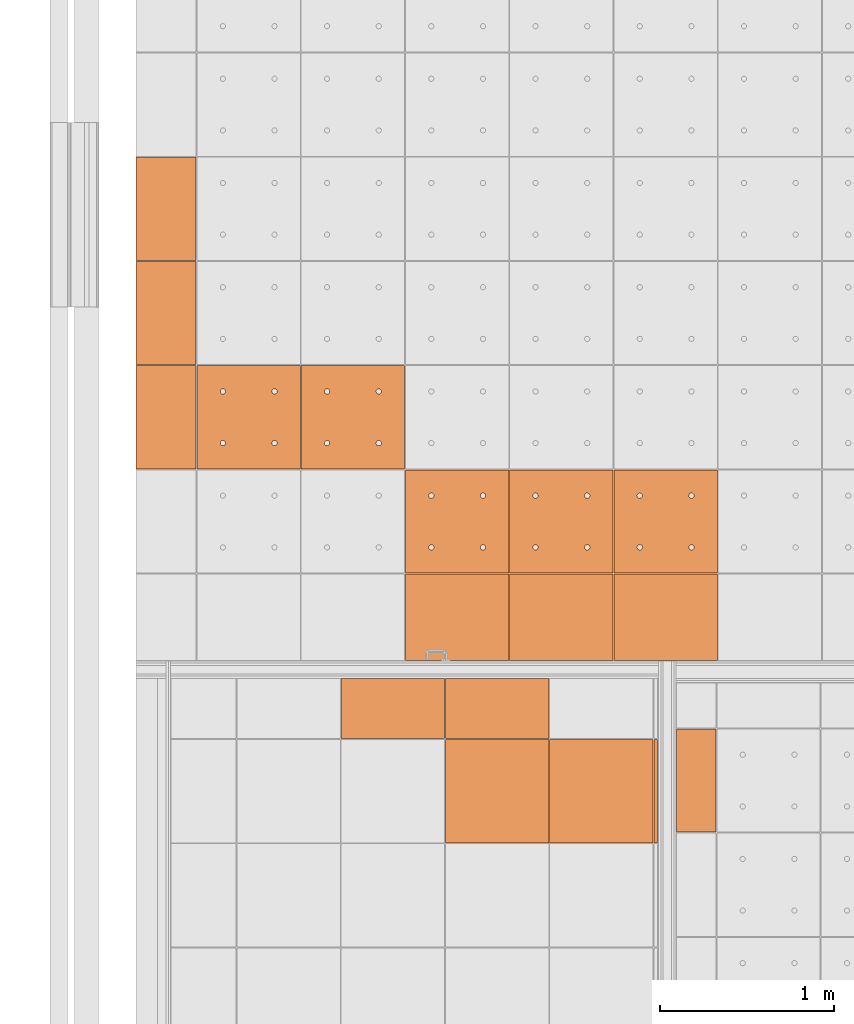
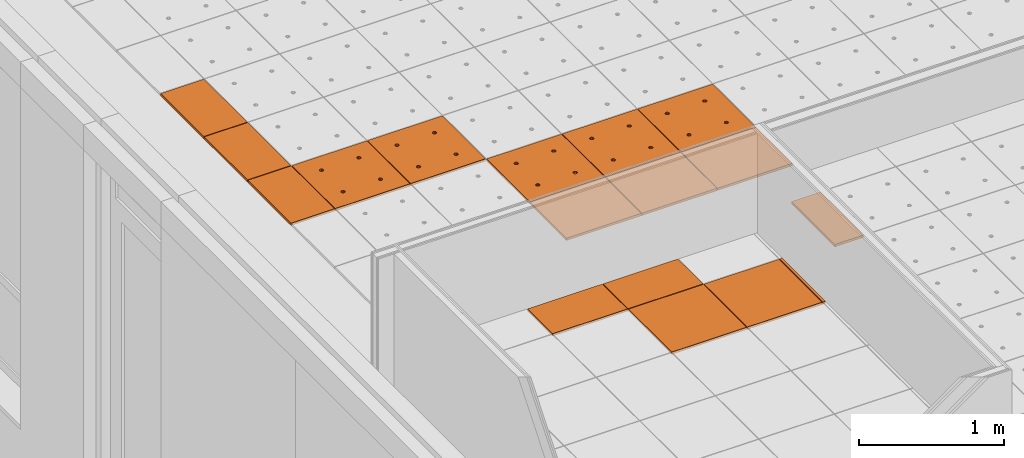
# One storey, part 244 of 338: 17 proxies, 3 elements without a shape of their own.
"""IFC2X3 building model written with IfcOpenShell, lengths in millimetres."""

from ifc_helpers import new_model, entity, si_unit, converted_unit, derived_unit, money_unit, direction, frame, origin_with_axes, place, context, subcontext, project, spatial, faceted_brep, source, transform, mapped, material, type_object, type_shapes, element, aggregate, save


model = new_model("IFC2X3")

# Units and contexts
model_context = context("Model", 3, precision=0.01, world=origin_with_axes(), true_north=direction((0.0, 1.0)))
plan_context = context("Plan", 3, precision=0.01, world=origin_with_axes(), true_north=direction((0.0, 1.0)))
body_context = subcontext(model_context, "Body", "Model", "MODEL_VIEW")
ifc_project = project(units=[si_unit("LENGTHUNIT", "METRE", prefix="MILLI"), si_unit("AREAUNIT", "SQUARE_METRE"), si_unit("VOLUMEUNIT", "CUBIC_METRE"), converted_unit("PLANEANGLEUNIT", "DEGREE", entity("IfcPlaneAngleMeasure", 0.0174532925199), si_unit("PLANEANGLEUNIT", "RADIAN"), dimensions=[0, 0, 0, 0, 0, 0, 0]), money_unit("EUR"), converted_unit("TIMEUNIT", "Year", entity("IfcTimeMeasure", 31556926.0), si_unit("TIMEUNIT", "SECOND"), dimensions=[0, 0, 1, 0, 0, 0, 0]), si_unit("MASSUNIT", "GRAM", prefix="KILO"), si_unit("THERMODYNAMICTEMPERATUREUNIT", "DEGREE_CELSIUS"), si_unit("LUMINOUSINTENSITYUNIT", "LUMEN"), si_unit("ENERGYUNIT", "JOULE", prefix="MEGA"), derived_unit("THERMALCONDUCTANCEUNIT", [(si_unit("POWERUNIT", "WATT"), 1), (si_unit("LENGTHUNIT", "METRE"), -1), (si_unit("THERMODYNAMICTEMPERATUREUNIT", "KELVIN"), -1)]), derived_unit("SPECIFICHEATCAPACITYUNIT", [(si_unit("ENERGYUNIT", "JOULE"), 1), (si_unit("MASSUNIT", "GRAM", prefix="KILO"), -1), (si_unit("THERMODYNAMICTEMPERATUREUNIT", "KELVIN"), -1)]), derived_unit("MASSDENSITYUNIT", [(si_unit("MASSUNIT", "GRAM", prefix="KILO"), 1), (si_unit("VOLUMEUNIT", "CUBIC_METRE"), -1)])], contexts=[model_context, plan_context])

# Site, building, storey
site_placement = place(None, origin_with_axes())
site = spatial("IfcSite", under=ifc_project, at=site_placement, Name="Fortuinstraat Woensdrecht", CompositionType="ELEMENT")
building_placement = place(site_placement, origin_with_axes())
building = spatial("IfcBuilding", under=site, at=building_placement, Name="IKC Fortuna", CompositionType="ELEMENT")
storey_placement = place(building_placement, origin_with_axes())
storey = spatial("IfcBuildingStorey", under=building, at=storey_placement, Name="00 begane grond", CompositionType="ELEMENT", Elevation=0.0)

# Covering, proxies
covering_type = type_object("IfcCoveringType", Name="Curtain Wall Type", PredefinedType="CEILING")
covering_1_placement = place(storey_placement, frame((15059.4416165, 34009.703821, 3210.0), z_axis=(0.0, 0.0, 1.0), x_axis=(1.0, 0.0, 0.0)))
covering_1 = element("IfcCovering", 1, at=covering_1_placement, inside=storey, type_object=covering_type, Name="45_Plafondafwerking_P01", PredefinedType="CEILING")
ifc_material = material(Name="Gipsplaat")
building_element_proxy_type_1 = type_object("IfcBuildingElementProxyType", Name="Distinct Panel 600 x 600 x 20", PredefinedType="NOTDEFINED")
shared_shape_1 = source(origin_with_axes(), body_context, "Body", "Brep", [
    faceted_brep([(2.49999999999, 2.49999999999, -10.0), (300.0, 2.49999999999, -10.0), (300.0, 2.49999999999, 10.0), (2.49999999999, 2.49999999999, 10.0), (2.49999999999, 300.0, -10.0), (2.49999999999, 597.5, -10.0), (300.0, 597.5, -10.0), (597.5, 597.5, -10.0), (597.5, 300.0, -10.0), (597.5, 2.49999999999, -10.0), (166.25, 450.06232995, -10.0), (165.79423259, 452.64711538, -10.0), (164.896546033, 455.11348892, -10.0), (163.58421608, 457.38651108, -10.0), (161.897117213, 459.39711721, -10.0), (159.886511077, 461.08421608, -10.0), (157.613488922, 462.39654603, -10.0), (155.147115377, 463.29423259, -10.0), (152.562329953, 463.75, -10.0), (149.937670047, 463.75, -10.0), (147.352884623, 463.29423259, -10.0), (144.886511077, 462.39654603, -10.0), (142.613488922, 461.08421608, -10.0), (140.602882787, 459.39711721, -10.0), (138.91578392, 457.38651108, -10.0), (137.603453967, 455.11348892, -10.0), (136.705767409, 452.64711538, -10.0), (136.25, 450.06232995, -10.0), (136.25, 448.75, -10.0), (136.25, 447.43767005, -10.0), (136.705767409, 444.85288462, -10.0), (137.603453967, 442.38651108, -10.0), (138.91578392, 440.11348892, -10.0), (140.602882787, 438.10288279, -10.0), (142.613488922, 436.41578392, -10.0), (144.886511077, 435.10345397, -10.0), (147.352884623, 434.20576741, -10.0), (149.937670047, 433.75, -10.0), (152.562329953, 433.75, -10.0), (155.147115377, 434.20576741, -10.0), (157.613488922, 435.10345397, -10.0), (159.886511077, 436.41578392, -10.0), (161.897117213, 438.10288279, -10.0), (163.58421608, 440.11348892, -10.0), (164.896546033, 442.38651108, -10.0), (165.79423259, 444.85288462, -10.0), (166.25, 447.43767005, -10.0), (463.75, 450.06232995, -10.0), (463.29423259, 452.64711538, -10.0), (462.396546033, 455.11348892, -10.0), (461.08421608, 457.38651108, -10.0), (459.397117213, 459.39711721, -10.0), (457.386511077, 461.08421608, -10.0), (455.113488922, 462.39654603, -10.0), (452.647115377, 463.29423259, -10.0), (450.062329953, 463.75, -10.0), (447.437670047, 463.75, -10.0), (444.852884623, 463.29423259, -10.0), (442.386511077, 462.39654603, -10.0), (440.113488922, 461.08421608, -10.0), (438.102882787, 459.39711721, -10.0), (436.41578392, 457.38651108, -10.0), (435.103453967, 455.11348892, -10.0), (434.205767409, 452.64711538, -10.0), (433.75, 450.06232995, -10.0), (433.75, 448.75, -10.0), (433.75, 447.43767005, -10.0), (434.205767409, 444.85288462, -10.0), (435.103453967, 442.38651108, -10.0), (436.41578392, 440.11348892, -10.0), (438.102882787, 438.10288279, -10.0), (440.113488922, 436.41578392, -10.0), (442.386511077, 435.10345397, -10.0), (444.852884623, 434.20576741, -10.0), (447.437670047, 433.75, -10.0), (450.062329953, 433.75, -10.0), (452.647115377, 434.20576741, -10.0), (455.113488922, 435.10345397, -10.0), (457.386511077, 436.41578392, -10.0), (459.397117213, 438.10288279, -10.0), (461.08421608, 440.11348892, -10.0), (462.396546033, 442.38651108, -10.0), (463.29423259, 444.85288462, -10.0), (463.75, 447.43767005, -10.0), (463.75, 152.56232995, -10.0), (463.29423259, 155.14711538, -10.0), (462.396546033, 157.61348892, -10.0), (461.08421608, 159.88651108, -10.0), (459.397117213, 161.89711721, -10.0), (457.386511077, 163.58421608, -10.0), (455.113488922, 164.89654603, -10.0), (452.647115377, 165.79423259, -10.0), (450.062329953, 166.25, -10.0), (447.437670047, 166.25, -10.0), (444.852884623, 165.79423259, -10.0), (442.386511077, 164.89654603, -10.0), (440.113488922, 163.58421608, -10.0), (438.102882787, 161.89711721, -10.0), (436.41578392, 159.88651108, -10.0), (435.103453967, 157.61348892, -10.0), (434.205767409, 155.14711538, -10.0), (433.75, 152.56232995, -10.0), (433.75, 151.25, -10.0), (433.75, 149.93767005, -10.0), (434.205767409, 147.35288462, -10.0), (435.103453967, 144.88651108, -10.0), (436.41578392, 142.61348892, -10.0), (438.102882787, 140.60288279, -10.0), (440.113488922, 138.91578392, -10.0), (442.386511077, 137.60345397, -10.0), (444.852884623, 136.70576741, -10.0), (447.437670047, 136.25, -10.0), (450.062329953, 136.25, -10.0), (452.647115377, 136.70576741, -10.0), (455.113488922, 137.60345397, -10.0), (457.386511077, 138.91578392, -10.0), (459.397117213, 140.60288279, -10.0), (461.08421608, 142.61348892, -10.0), (462.396546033, 144.88651108, -10.0), (463.29423259, 147.35288462, -10.0), (463.75, 149.93767005, -10.0), (166.25, 152.56232995, -10.0), (165.79423259, 155.14711538, -10.0), (164.896546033, 157.61348892, -10.0), (163.58421608, 159.88651108, -10.0), (161.897117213, 161.89711721, -10.0), (159.886511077, 163.58421608, -10.0), (157.613488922, 164.89654603, -10.0), (155.147115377, 165.79423259, -10.0), (152.562329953, 166.25, -10.0), (149.937670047, 166.25, -10.0), (147.352884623, 165.79423259, -10.0), (144.886511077, 164.89654603, -10.0), (142.613488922, 163.58421608, -10.0), (140.602882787, 161.89711721, -10.0), (138.91578392, 159.88651108, -10.0), (137.603453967, 157.61348892, -10.0), (136.705767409, 155.14711538, -10.0), (136.25, 152.56232995, -10.0), (136.25, 151.25, -10.0), (136.25, 149.93767005, -10.0), (136.705767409, 147.35288462, -10.0), (137.603453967, 144.88651108, -10.0), (138.91578392, 142.61348892, -10.0), (140.602882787, 140.60288279, -10.0), (142.613488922, 138.91578392, -10.0), (144.886511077, 137.60345397, -10.0), (147.352884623, 136.70576741, -10.0), (149.937670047, 136.25, -10.0), (152.562329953, 136.25, -10.0), (155.147115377, 136.70576741, -10.0), (157.613488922, 137.60345397, -10.0), (159.886511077, 138.91578392, -10.0), (161.897117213, 140.60288279, -10.0), (163.58421608, 142.61348892, -10.0), (164.896546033, 144.88651108, -10.0), (165.79423259, 147.35288462, -10.0), (166.25, 149.93767005, -10.0), (597.5, 2.49999999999, 10.0), (597.5, 300.0, 10.0), (597.5, 597.5, 10.0), (300.0, 597.5, 10.0), (2.49999999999, 597.5, 10.0), (2.49999999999, 300.0, 10.0), (166.25, 450.06232995, 10.0), (166.25, 447.43767005, 10.0), (165.79423259, 444.85288462, 10.0), (164.896546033, 442.38651108, 10.0), (163.58421608, 440.11348892, 10.0), (161.897117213, 438.10288279, 10.0), (159.886511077, 436.41578392, 10.0), (157.613488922, 435.10345397, 10.0), (155.147115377, 434.20576741, 10.0), (152.562329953, 433.75, 10.0), (149.937670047, 433.75, 10.0), (147.352884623, 434.20576741, 10.0), (144.886511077, 435.10345397, 10.0), (142.613488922, 436.41578392, 10.0), (140.602882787, 438.10288279, 10.0), (138.91578392, 440.11348892, 10.0), (137.603453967, 442.38651108, 10.0), (136.705767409, 444.85288462, 10.0), (136.25, 447.43767005, 10.0), (136.25, 448.75, 10.0), (136.25, 450.06232995, 10.0), (136.705767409, 452.64711538, 10.0), (137.603453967, 455.11348892, 10.0), (138.91578392, 457.38651108, 10.0), (140.602882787, 459.39711721, 10.0), (142.613488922, 461.08421608, 10.0), (144.886511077, 462.39654603, 10.0), (147.352884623, 463.29423259, 10.0), (149.937670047, 463.75, 10.0), (152.562329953, 463.75, 10.0), (155.147115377, 463.29423259, 10.0), (157.613488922, 462.39654603, 10.0), (159.886511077, 461.08421608, 10.0), (161.897117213, 459.39711721, 10.0), (163.58421608, 457.38651108, 10.0), (164.896546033, 455.11348892, 10.0), (165.79423259, 452.64711538, 10.0), (463.75, 450.06232995, 10.0), (463.75, 447.43767005, 10.0), (463.29423259, 444.85288462, 10.0), (462.396546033, 442.38651108, 10.0), (461.08421608, 440.11348892, 10.0), (459.397117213, 438.10288279, 10.0), (457.386511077, 436.41578392, 10.0), (455.113488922, 435.10345397, 10.0), (452.647115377, 434.20576741, 10.0), (450.062329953, 433.75, 10.0), (447.437670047, 433.75, 10.0), (444.852884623, 434.20576741, 10.0), (442.386511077, 435.10345397, 10.0), (440.113488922, 436.41578392, 10.0), (438.102882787, 438.10288279, 10.0), (436.41578392, 440.11348892, 10.0), (435.103453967, 442.38651108, 10.0), (434.205767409, 444.85288462, 10.0), (433.75, 447.43767005, 10.0), (433.75, 448.75, 10.0), (433.75, 450.06232995, 10.0), (434.205767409, 452.64711538, 10.0), (435.103453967, 455.11348892, 10.0), (436.41578392, 457.38651108, 10.0), (438.102882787, 459.39711721, 10.0), (440.113488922, 461.08421608, 10.0), (442.386511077, 462.39654603, 10.0), (444.852884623, 463.29423259, 10.0), (447.437670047, 463.75, 10.0), (450.062329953, 463.75, 10.0), (452.647115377, 463.29423259, 10.0), (455.113488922, 462.39654603, 10.0), (457.386511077, 461.08421608, 10.0), (459.397117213, 459.39711721, 10.0), (461.08421608, 457.38651108, 10.0), (462.396546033, 455.11348892, 10.0), (463.29423259, 452.64711538, 10.0), (463.75, 152.56232995, 10.0), (463.75, 149.93767005, 10.0), (463.29423259, 147.35288462, 10.0), (462.396546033, 144.88651108, 10.0), (461.08421608, 142.61348892, 10.0), (459.397117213, 140.60288279, 10.0), (457.386511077, 138.91578392, 10.0), (455.113488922, 137.60345397, 10.0), (452.647115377, 136.70576741, 10.0), (450.062329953, 136.25, 10.0), (447.437670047, 136.25, 10.0), (444.852884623, 136.70576741, 10.0), (442.386511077, 137.60345397, 10.0), (440.113488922, 138.91578392, 10.0), (438.102882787, 140.60288279, 10.0), (436.41578392, 142.61348892, 10.0), (435.103453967, 144.88651108, 10.0), (434.205767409, 147.35288462, 10.0), (433.75, 149.93767005, 10.0), (433.75, 151.25, 10.0), (433.75, 152.56232995, 10.0), (434.205767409, 155.14711538, 10.0), (435.103453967, 157.61348892, 10.0), (436.41578392, 159.88651108, 10.0), (438.102882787, 161.89711721, 10.0), (440.113488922, 163.58421608, 10.0), (442.386511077, 164.89654603, 10.0), (444.852884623, 165.79423259, 10.0), (447.437670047, 166.25, 10.0), (450.062329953, 166.25, 10.0), (452.647115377, 165.79423259, 10.0), (455.113488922, 164.89654603, 10.0), (457.386511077, 163.58421608, 10.0), (459.397117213, 161.89711721, 10.0), (461.08421608, 159.88651108, 10.0), (462.396546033, 157.61348892, 10.0), (463.29423259, 155.14711538, 10.0), (166.25, 152.56232995, 10.0), (166.25, 149.93767005, 10.0), (165.79423259, 147.35288462, 10.0), (164.896546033, 144.88651108, 10.0), (163.58421608, 142.61348892, 10.0), (161.897117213, 140.60288279, 10.0), (159.886511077, 138.91578392, 10.0), (157.613488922, 137.60345397, 10.0), (155.147115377, 136.70576741, 10.0), (152.562329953, 136.25, 10.0), (149.937670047, 136.25, 10.0), (147.352884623, 136.70576741, 10.0), (144.886511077, 137.60345397, 10.0), (142.613488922, 138.91578392, 10.0), (140.602882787, 140.60288279, 10.0), (138.91578392, 142.61348892, 10.0), (137.603453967, 144.88651108, 10.0), (136.705767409, 147.35288462, 10.0), (136.25, 149.93767005, 10.0), (136.25, 151.25, 10.0), (136.25, 152.56232995, 10.0), (136.705767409, 155.14711538, 10.0), (137.603453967, 157.61348892, 10.0), (138.91578392, 159.88651108, 10.0), (140.602882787, 161.89711721, 10.0), (142.613488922, 163.58421608, 10.0), (144.886511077, 164.89654603, 10.0), (147.352884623, 165.79423259, 10.0), (149.937670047, 166.25, 10.0), (152.562329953, 166.25, 10.0), (155.147115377, 165.79423259, 10.0), (157.613488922, 164.89654603, 10.0), (159.886511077, 163.58421608, 10.0), (161.897117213, 161.89711721, 10.0), (163.58421608, 159.88651108, 10.0), (164.896546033, 157.61348892, 10.0), (165.79423259, 155.14711538, 10.0)], [[[0, 1, 2, 3]], [[0, 4, 5, 6, 7, 8, 9, 1], [10, 11, 12, 13, 14, 15, 16, 17, 18, 19, 20, 21, 22, 23, 24, 25, 26, 27, 28, 29, 30, 31, 32, 33, 34, 35, 36, 37, 38, 39, 40, 41, 42, 43, 44, 45, 46], [47, 48, 49, 50, 51, 52, 53, 54, 55, 56, 57, 58, 59, 60, 61, 62, 63, 64, 65, 66, 67, 68, 69, 70, 71, 72, 73, 74, 75, 76, 77, 78, 79, 80, 81, 82, 83], [84, 85, 86, 87, 88, 89, 90, 91, 92, 93, 94, 95, 96, 97, 98, 99, 100, 101, 102, 103, 104, 105, 106, 107, 108, 109, 110, 111, 112, 113, 114, 115, 116, 117, 118, 119, 120], [121, 122, 123, 124, 125, 126, 127, 128, 129, 130, 131, 132, 133, 134, 135, 136, 137, 138, 139, 140, 141, 142, 143, 144, 145, 146, 147, 148, 149, 150, 151, 152, 153, 154, 155, 156, 157]], [[1, 9, 158, 2]], [[3, 2, 158, 159, 160, 161, 162, 163], [164, 165, 166, 167, 168, 169, 170, 171, 172, 173, 174, 175, 176, 177, 178, 179, 180, 181, 182, 183, 184, 185, 186, 187, 188, 189, 190, 191, 192, 193, 194, 195, 196, 197, 198, 199, 200], [201, 202, 203, 204, 205, 206, 207, 208, 209, 210, 211, 212, 213, 214, 215, 216, 217, 218, 219, 220, 221, 222, 223, 224, 225, 226, 227, 228, 229, 230, 231, 232, 233, 234, 235, 236, 237], [238, 239, 240, 241, 242, 243, 244, 245, 246, 247, 248, 249, 250, 251, 252, 253, 254, 255, 256, 257, 258, 259, 260, 261, 262, 263, 264, 265, 266, 267, 268, 269, 270, 271, 272, 273, 274], [275, 276, 277, 278, 279, 280, 281, 282, 283, 284, 285, 286, 287, 288, 289, 290, 291, 292, 293, 294, 295, 296, 297, 298, 299, 300, 301, 302, 303, 304, 305, 306, 307, 308, 309, 310, 311]], [[4, 0, 3, 163]], [[5, 4, 163, 162]], [[6, 5, 162, 161]], [[7, 6, 161, 160]], [[8, 7, 160, 159]], [[9, 8, 159, 158]], [[11, 10, 164, 200]], [[12, 11, 200, 199]], [[13, 12, 199, 198]], [[14, 13, 198, 197]], [[15, 14, 197, 196]], [[16, 15, 196, 195]], [[17, 16, 195, 194]], [[18, 17, 194, 193]], [[19, 18, 193, 192]], [[20, 19, 192, 191]], [[21, 20, 191, 190]], [[22, 21, 190, 189]], [[23, 22, 189, 188]], [[24, 23, 188, 187]], [[25, 24, 187, 186]], [[26, 25, 186, 185]], [[27, 26, 185, 184]], [[28, 27, 184, 183]], [[29, 28, 183, 182]], [[30, 29, 182, 181]], [[31, 30, 181, 180]], [[32, 31, 180, 179]], [[33, 32, 179, 178]], [[34, 33, 178, 177]], [[35, 34, 177, 176]], [[36, 35, 176, 175]], [[37, 36, 175, 174]], [[38, 37, 174, 173]], [[39, 38, 173, 172]], [[40, 39, 172, 171]], [[41, 40, 171, 170]], [[42, 41, 170, 169]], [[43, 42, 169, 168]], [[44, 43, 168, 167]], [[45, 44, 167, 166]], [[46, 45, 166, 165]], [[10, 46, 165, 164]], [[48, 47, 201, 237]], [[49, 48, 237, 236]], [[50, 49, 236, 235]], [[51, 50, 235, 234]], [[52, 51, 234, 233]], [[53, 52, 233, 232]], [[54, 53, 232, 231]], [[55, 54, 231, 230]], [[56, 55, 230, 229]], [[57, 56, 229, 228]], [[58, 57, 228, 227]], [[59, 58, 227, 226]], [[60, 59, 226, 225]], [[61, 60, 225, 224]], [[62, 61, 224, 223]], [[63, 62, 223, 222]], [[64, 63, 222, 221]], [[65, 64, 221, 220]], [[66, 65, 220, 219]], [[67, 66, 219, 218]], [[68, 67, 218, 217]], [[69, 68, 217, 216]], [[70, 69, 216, 215]], [[71, 70, 215, 214]], [[72, 71, 214, 213]], [[73, 72, 213, 212]], [[74, 73, 212, 211]], [[75, 74, 211, 210]], [[76, 75, 210, 209]], [[77, 76, 209, 208]], [[78, 77, 208, 207]], [[79, 78, 207, 206]], [[80, 79, 206, 205]], [[81, 80, 205, 204]], [[82, 81, 204, 203]], [[83, 82, 203, 202]], [[47, 83, 202, 201]], [[85, 84, 238, 274]], [[86, 85, 274, 273]], [[87, 86, 273, 272]], [[88, 87, 272, 271]], [[89, 88, 271, 270]], [[90, 89, 270, 269]], [[91, 90, 269, 268]], [[92, 91, 268, 267]], [[93, 92, 267, 266]], [[94, 93, 266, 265]], [[95, 94, 265, 264]], [[96, 95, 264, 263]], [[97, 96, 263, 262]], [[98, 97, 262, 261]], [[99, 98, 261, 260]], [[100, 99, 260, 259]], [[101, 100, 259, 258]], [[102, 101, 258, 257]], [[103, 102, 257, 256]], [[104, 103, 256, 255]], [[105, 104, 255, 254]], [[106, 105, 254, 253]], [[107, 106, 253, 252]], [[108, 107, 252, 251]], [[109, 108, 251, 250]], [[110, 109, 250, 249]], [[111, 110, 249, 248]], [[112, 111, 248, 247]], [[113, 112, 247, 246]], [[114, 113, 246, 245]], [[115, 114, 245, 244]], [[116, 115, 244, 243]], [[117, 116, 243, 242]], [[118, 117, 242, 241]], [[119, 118, 241, 240]], [[120, 119, 240, 239]], [[84, 120, 239, 238]], [[122, 121, 275, 311]], [[123, 122, 311, 310]], [[124, 123, 310, 309]], [[125, 124, 309, 308]], [[126, 125, 308, 307]], [[127, 126, 307, 306]], [[128, 127, 306, 305]], [[129, 128, 305, 304]], [[130, 129, 304, 303]], [[131, 130, 303, 302]], [[132, 131, 302, 301]], [[133, 132, 301, 300]], [[134, 133, 300, 299]], [[135, 134, 299, 298]], [[136, 135, 298, 297]], [[137, 136, 297, 296]], [[138, 137, 296, 295]], [[139, 138, 295, 294]], [[140, 139, 294, 293]], [[141, 140, 293, 292]], [[142, 141, 292, 291]], [[143, 142, 291, 290]], [[144, 143, 290, 289]], [[145, 144, 289, 288]], [[146, 145, 288, 287]], [[147, 146, 287, 286]], [[148, 147, 286, 285]], [[149, 148, 285, 284]], [[150, 149, 284, 283]], [[151, 150, 283, 282]], [[152, 151, 282, 281]], [[153, 152, 281, 280]], [[154, 153, 280, 279]], [[155, 154, 279, 278]], [[156, 155, 278, 277]], [[157, 156, 277, 276]], [[121, 157, 276, 275]]]),
])
proxy_1_placement = place(covering_1_placement, frame((600.0, -6600.0, 1.56763491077e-10), z_axis=(0.0, 0.0, 1.0), x_axis=(1.0, 0.0, 0.0)))
proxy_1 = element("IfcBuildingElementProxy", 2, at=proxy_1_placement, type_object=building_element_proxy_type_1, material=ifc_material, Name="__Panel-D", context=body_context, shape_type="MappedRepresentation", body=[
    mapped(shared_shape_1, transform((300.0, 300.0, 0.0), x_axis=(-1.0, 0.0, 0.0), y_axis=(0.0, -1.0, 0.0), z_axis=(0.0, 0.0, 1.0))),
])
proxy_2_placement = place(covering_1_placement, frame((0.0, -6000.0, 1.7630341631e-10), z_axis=(0.0, 0.0, 1.0), x_axis=(1.0, 0.0, 0.0)))
proxy_2 = element("IfcBuildingElementProxy", 3, at=proxy_2_placement, type_object=building_element_proxy_type_1, material=ifc_material, Name="__Panel-D", context=body_context, shape_type="MappedRepresentation", body=[
    mapped(shared_shape_1, transform((300.0, 300.0, 0.0), x_axis=(-1.0, 0.0, 0.0), y_axis=(0.0, -1.0, 0.0), z_axis=(0.0, 0.0, 1.0))),
])
proxy_3_placement = place(covering_1_placement, frame((1200.0, -6600.0, 1.37223565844e-10), z_axis=(0.0, 0.0, 1.0), x_axis=(1.0, 0.0, 0.0)))
proxy_3 = element("IfcBuildingElementProxy", 4, at=proxy_3_placement, type_object=building_element_proxy_type_1, material=ifc_material, Name="__Panel-D", context=body_context, shape_type="MappedRepresentation", body=[
    mapped(shared_shape_1, transform((300.0, 300.0, 0.0), x_axis=(-1.0, 0.0, 0.0), y_axis=(0.0, -1.0, 0.0), z_axis=(0.0, 0.0, 1.0))),
])
proxy_4_placement = place(covering_1_placement, frame((-600.0, -6000.0, 1.95843341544e-10), z_axis=(0.0, 0.0, 1.0), x_axis=(1.0, 0.0, 0.0)))
proxy_4 = element("IfcBuildingElementProxy", 5, at=proxy_4_placement, type_object=building_element_proxy_type_1, material=ifc_material, Name="__Panel-D", context=body_context, shape_type="MappedRepresentation", body=[
    mapped(shared_shape_1, transform((300.0, 300.0, 0.0), x_axis=(-1.0, 0.0, 0.0), y_axis=(0.0, -1.0, 0.0), z_axis=(0.0, 0.0, 1.0))),
])
proxy_5_placement = place(covering_1_placement, frame((1800.0, -6600.0, 1.172395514e-10), z_axis=(0.0, 0.0, 1.0), x_axis=(1.0, 0.0, 0.0)))
proxy_5 = element("IfcBuildingElementProxy", 6, at=proxy_5_placement, type_object=building_element_proxy_type_1, material=ifc_material, Name="__Panel-D", context=body_context, shape_type="MappedRepresentation", body=[
    mapped(shared_shape_1, transform((300.0, 300.0, 0.0), x_axis=(-1.0, 0.0, 0.0), y_axis=(0.0, -1.0, 0.0), z_axis=(0.0, 0.0, 1.0))),
])
building_element_proxy_type_2 = type_object("IfcBuildingElementProxyType", Name="Main Panel 350 x 600 x 20", PredefinedType="NOTDEFINED")
shared_shape_2 = source(origin_with_axes(), body_context, "Body", "Brep", [
    faceted_brep([(2.49999837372, 2.5, -10.0), (347.50666814, 2.49999999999, -10.0), (347.50666814, 2.49999999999, 10.0), (2.49999837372, 2.5, 10.0), (2.49999837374, 597.5, -10.0), (347.506659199, 597.5, -10.0), (347.506659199, 597.5, 10.0), (2.49999837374, 597.5, 10.0)], [[[0, 1, 2, 3]], [[0, 4, 5, 1]], [[1, 5, 6, 2]], [[3, 2, 6, 7]], [[4, 0, 3, 7]], [[5, 4, 7, 6]]]),
])
proxy_6_placement = place(covering_1_placement, frame((-1075.00333407, -5400.0, 2.11386463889e-10), z_axis=(0.0, 0.0, 1.0), x_axis=(1.0, 0.0, 0.0)))
proxy_6 = element("IfcBuildingElementProxy", 7, at=proxy_6_placement, type_object=building_element_proxy_type_2, material=ifc_material, Name="__Panel-D", context=body_context, shape_type="MappedRepresentation", body=[
    mapped(shared_shape_2, transform((175.00333407, 300.0, 0.0), x_axis=(-1.0, 0.0, 0.0), y_axis=(0.0, -1.0, 0.0), z_axis=(0.0, 0.0, 1.0))),
])
building_element_proxy_type_3 = type_object("IfcBuildingElementProxyType", Name="Main Panel 600 x 503 x 20", PredefinedType="NOTDEFINED")
shared_shape_3 = source(origin_with_axes(), body_context, "Body", "Brep", [
    faceted_brep([(2.49999999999, 2.49999752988, -10.0), (597.5, 2.49999752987, -10.0), (597.5, 2.49999752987, 10.0), (2.49999999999, 2.49999752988, 10.0), (2.5, 500.092828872, -10.0), (597.5, 500.092828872, -10.0), (597.5, 500.092828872, 10.0), (2.5, 500.092828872, 10.0)], [[[0, 1, 2, 3]], [[0, 4, 5, 1]], [[1, 5, 6, 2]], [[3, 2, 6, 7]], [[4, 0, 3, 7]], [[5, 4, 7, 6]]]),
])
type_shapes(building_element_proxy_type_3, [shared_shape_3])
proxy_7_placement = place(covering_1_placement, frame((1800.0, -7151.29641444, 1.172395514e-10), z_axis=(0.0, 0.0, 1.0), x_axis=(1.0, 0.0, 0.0)))
proxy_7 = element("IfcBuildingElementProxy", 8, at=proxy_7_placement, type_object=building_element_proxy_type_3, material=ifc_material, Name="__Panel-D", context=body_context, shape_type="MappedRepresentation", body=[
    mapped(shared_shape_3, transform((300.0, 251.296414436, 0.0), x_axis=(-1.0, 0.0, 0.0), y_axis=(0.0, -1.0, 0.0), z_axis=(0.0, 0.0, 1.0))),
])
proxy_8_placement = place(covering_1_placement, frame((600.0, -7151.29641444, 1.56763491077e-10), z_axis=(0.0, 0.0, 1.0), x_axis=(1.0, 0.0, 0.0)))
proxy_8 = element("IfcBuildingElementProxy", 9, at=proxy_8_placement, type_object=building_element_proxy_type_3, material=ifc_material, Name="__Panel-D", context=body_context, shape_type="MappedRepresentation", body=[
    mapped(shared_shape_3, transform((300.0, 251.296414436, 0.0), x_axis=(-1.0, 0.0, 0.0), y_axis=(0.0, -1.0, 0.0), z_axis=(0.0, 0.0, 1.0))),
])
proxy_9_placement = place(covering_1_placement, frame((1200.0, -7151.29641444, 1.37223565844e-10), z_axis=(0.0, 0.0, 1.0), x_axis=(1.0, 0.0, 0.0)))
proxy_9 = element("IfcBuildingElementProxy", 10, at=proxy_9_placement, type_object=building_element_proxy_type_3, material=ifc_material, Name="__Panel-D", context=body_context, shape_type="MappedRepresentation", body=[
    mapped(shared_shape_3, transform((300.0, 251.296414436, 0.0), x_axis=(-1.0, 0.0, 0.0), y_axis=(0.0, -1.0, 0.0), z_axis=(0.0, 0.0, 1.0))),
])
shared_shape_4 = source(origin_with_axes(), body_context, "Body", "Brep", [
    faceted_brep([(2.49999837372, 2.5, -10.0), (347.50666814, 2.49999999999, -10.0), (347.50666814, 2.49999999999, 10.0), (2.49999837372, 2.5, 10.0), (2.49999837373, 597.5, -10.0), (347.50666814, 597.5, -10.0), (347.50666814, 597.5, 10.0), (2.49999837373, 597.5, 10.0)], [[[0, 1, 2, 3]], [[0, 4, 5, 1]], [[1, 5, 6, 2]], [[3, 2, 6, 7]], [[4, 0, 3, 7]], [[5, 4, 7, 6]]]),
])
type_shapes(building_element_proxy_type_2, [shared_shape_2, shared_shape_4])
proxy_10_placement = place(covering_1_placement, frame((-1075.00333407, -4800.0, 2.11386463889e-10), z_axis=(0.0, 0.0, 1.0), x_axis=(1.0, 0.0, 0.0)))
proxy_10 = element("IfcBuildingElementProxy", 11, at=proxy_10_placement, type_object=building_element_proxy_type_2, material=ifc_material, Name="__Panel-D", context=body_context, shape_type="MappedRepresentation", body=[
    mapped(shared_shape_4, transform((175.00333407, 300.0, 0.0), x_axis=(-1.0, 0.0, 0.0), y_axis=(0.0, -1.0, 0.0), z_axis=(0.0, 0.0, 1.0))),
])
proxy_11_placement = place(covering_1_placement, frame((-1075.00333407, -6000.0, 2.11386463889e-10), z_axis=(0.0, 0.0, 1.0), x_axis=(1.0, 0.0, 0.0)))
proxy_11 = element("IfcBuildingElementProxy", 12, at=proxy_11_placement, type_object=building_element_proxy_type_2, material=ifc_material, Name="__Panel-D", context=body_context, shape_type="MappedRepresentation", body=[
    mapped(shared_shape_4, transform((175.00333407, 300.0, 0.0), x_axis=(-1.0, 0.0, 0.0), y_axis=(0.0, -1.0, 0.0), z_axis=(0.0, 0.0, 1.0))),
])
aggregate(covering_1, [proxy_10, proxy_7, proxy_8, proxy_1, proxy_2, proxy_3, proxy_9, proxy_6, proxy_4, proxy_11, proxy_5])

covering_2_placement = place(storey_placement, frame((14689.4846177, 25257.3287491, 2810.0), z_axis=(0.0, 0.0, 1.0), x_axis=(1.0, 0.0, 0.0)))
covering_2 = element("IfcCovering", 13, at=covering_2_placement, inside=storey, type_object=covering_type, Name="45_Plafondafwerking_P02", PredefinedType="CEILING")
shared_shape_5 = source(origin_with_axes(), body_context, "Body", "Brep", [
    faceted_brep([(-2.50000188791, 2.50000518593, -10.0), (-2.50000188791, 2.50000518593, 10.0), (-597.499994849, 2.50000192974, 10.0), (-597.499994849, 2.50000192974, -10.0), (-2.50000514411, 597.499998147, -10.0), (-2.50000514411, 597.499998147, 10.0), (-597.499998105, 597.499994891, 10.0), (-597.499998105, 597.499994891, -10.0)], [[[0, 1, 2, 3]], [[4, 5, 1, 0]], [[1, 5, 6, 2]], [[3, 2, 6, 7]], [[0, 3, 7, 4]], [[7, 6, 5, 4]]]),
])
proxy_12_placement = place(covering_2_placement, frame((1200.0, 600.0, 0.0), z_axis=(0.0, 0.0, 1.0), x_axis=(1.0, 0.0, 0.0)))
proxy_12 = element("IfcBuildingElementProxy", 14, at=proxy_12_placement, type_object=building_element_proxy_type_1, material=ifc_material, Name="__Panel-D", context=body_context, shape_type="MappedRepresentation", body=[
    mapped(shared_shape_5, transform((-300.0, 300.0, 0.0), x_axis=(-1.0, 0.0, 0.0), y_axis=(0.0, -1.0, 0.0), z_axis=(0.0, 0.0, 1.0))),
])
shared_shape_6 = source(origin_with_axes(), body_context, "Body", "Brep", [
    faceted_brep([(-2.49999999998, 2.5, -10.0), (-2.49999999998, 2.5, 10.0), (-597.5, 2.49999999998, 10.0), (-597.5, 2.49999999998, -10.0), (-2.50000000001, 597.5, -10.0), (-2.50000000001, 597.5, 10.0), (-597.5, 597.5, 10.0), (-597.5, 597.5, -10.0)], [[[0, 1, 2, 3]], [[4, 5, 1, 0]], [[1, 5, 6, 2]], [[3, 2, 6, 7]], [[0, 3, 7, 4]], [[7, 6, 5, 4]]]),
])
type_shapes(building_element_proxy_type_1, [shared_shape_1, shared_shape_5, shared_shape_6])
proxy_13_placement = place(covering_2_placement, frame((1800.0, 600.0, 0.0), z_axis=(0.0, 0.0, 1.0), x_axis=(1.0, 0.0, 0.0)))
proxy_13 = element("IfcBuildingElementProxy", 15, at=proxy_13_placement, type_object=building_element_proxy_type_1, material=ifc_material, Name="__Panel-D", context=body_context, shape_type="MappedRepresentation", body=[
    mapped(shared_shape_6, transform((-300.0, 300.0, 0.0), x_axis=(-1.0, 0.0, 0.0), y_axis=(0.0, -1.0, 0.0), z_axis=(0.0, 0.0, 1.0))),
])
building_element_proxy_type_4 = type_object("IfcBuildingElementProxyType", Name="Distinct Panel 600 x 350 x 20", PredefinedType="NOTDEFINED")
shared_shape_7 = source(origin_with_axes(), body_context, "Body", "Brep", [
    faceted_brep([(-2.49999999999, 252.717706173, -10.0), (-2.49999999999, 252.717706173, 10.0), (-597.5, 252.717706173, 10.0), (-597.5, 252.717706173, -10.0), (-2.50000000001, 597.5, -10.0), (-2.50000000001, 597.5, 10.0), (-597.5, 597.5, 10.0), (-597.5, 597.5, -10.0)], [[[0, 1, 2, 3]], [[4, 5, 1, 0]], [[1, 5, 6, 2]], [[3, 2, 6, 7]], [[0, 3, 7, 4]], [[7, 6, 5, 4]]]),
])
type_shapes(building_element_proxy_type_4, [shared_shape_7])
proxy_14_placement = place(covering_2_placement, frame((1200.0, 1074.89114598, 0.0), z_axis=(0.0, 0.0, 1.0), x_axis=(1.0, 0.0, 0.0)))
proxy_14 = element("IfcBuildingElementProxy", 16, at=proxy_14_placement, type_object=building_element_proxy_type_4, material=ifc_material, Name="__Panel-D", context=body_context, shape_type="MappedRepresentation", body=[
    mapped(shared_shape_7, transform((-300.0, 425.108854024, 0.0), x_axis=(-1.0, 0.0, 0.0), y_axis=(0.0, -1.0, 0.0), z_axis=(0.0, 0.0, 1.0))),
])
proxy_15_placement = place(covering_2_placement, frame((600.0, 1074.89114598, 0.0), z_axis=(0.0, 0.0, 1.0), x_axis=(1.0, 0.0, 0.0)))
proxy_15 = element("IfcBuildingElementProxy", 17, at=proxy_15_placement, type_object=building_element_proxy_type_4, material=ifc_material, Name="__Panel-D", context=body_context, shape_type="MappedRepresentation", body=[
    mapped(shared_shape_7, transform((-300.0, 425.108854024, 0.0), x_axis=(-1.0, 0.0, 0.0), y_axis=(0.0, -1.0, 0.0), z_axis=(0.0, 0.0, 1.0))),
])
building_element_proxy_type_5 = type_object("IfcBuildingElementProxyType", Name="Distinct Panel 26 x 600 x 20", PredefinedType="NOTDEFINED")
shared_shape_8 = source(origin_with_axes(), body_context, "Body", "Brep", [
    faceted_brep([(-2.50000116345, 2.5, -10.0), (-2.50000116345, 2.5, 10.0), (-23.5482988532, 2.5, 10.0), (-23.5482988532, 2.5, -10.0), (-2.50000116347, 597.5, -10.0), (-2.50000116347, 597.5, 10.0), (-23.5482988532, 597.5, 10.0), (-23.5482988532, 597.5, -10.0)], [[[0, 1, 2, 3]], [[4, 5, 1, 0]], [[1, 5, 6, 2]], [[3, 2, 6, 7]], [[0, 3, 7, 4]], [[7, 6, 5, 4]]]),
])
type_shapes(building_element_proxy_type_5, [shared_shape_8])
proxy_16_placement = place(covering_2_placement, frame((2113.02414943, 600.0, 0.0), z_axis=(0.0, 0.0, 1.0), x_axis=(1.0, 0.0, 0.0)))
proxy_16 = element("IfcBuildingElementProxy", 18, at=proxy_16_placement, type_object=building_element_proxy_type_5, material=ifc_material, Name="__Panel-D", context=body_context, shape_type="MappedRepresentation", body=[
    mapped(shared_shape_8, transform((-13.0241494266, 300.0, 0.0), x_axis=(-1.0, 0.0, 0.0), y_axis=(0.0, -1.0, 0.0), z_axis=(0.0, 0.0, 1.0))),
])
aggregate(covering_2, [proxy_14, proxy_15, proxy_12, proxy_16, proxy_13])

# Covering, proxy
covering_3_placement = place(storey_placement, frame((17451.9845996, 24118.5314449, 3210.0), z_axis=(0.0, 0.0, 1.0), x_axis=(1.0, 0.0, 0.0)))
covering_3 = element("IfcCovering", 19, at=covering_3_placement, inside=storey, type_object=covering_type, Name="45_Plafondafwerking_P01", PredefinedType="CEILING")
building_element_proxy_type_6 = type_object("IfcBuildingElementProxyType", Name="232 x 600 x 20", PredefinedType="NOTDEFINED")
shared_shape_9 = source(origin_with_axes(), body_context, "Body", "Brep", [
    faceted_brep([(2.50000198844, 2.5, -10.0), (229.950372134, 2.5, -10.0), (229.950372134, 2.5, 10.0), (2.50000198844, 2.5, 10.0), (2.50000198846, 597.5, -10.0), (229.950372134, 597.5, -10.0), (229.950372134, 597.5, 10.0), (2.50000198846, 597.5, 10.0)], [[[0, 1, 2, 3]], [[0, 4, 5, 1]], [[1, 5, 6, 2]], [[3, 2, 6, 7]], [[4, 0, 3, 7]], [[5, 4, 7, 6]]]),
])
type_shapes(building_element_proxy_type_6, [shared_shape_9])
proxy_17_placement = place(covering_3_placement, frame((-416.225186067, 1800.0, 1.11466391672e-10), z_axis=(0.0, 0.0, 1.0), x_axis=(1.0, 0.0, 0.0)))
proxy_17 = element("IfcBuildingElementProxy", 20, at=proxy_17_placement, type_object=building_element_proxy_type_6, material=ifc_material, Name="__600x608 Rockfon Krios", context=body_context, shape_type="MappedRepresentation", body=[
    mapped(shared_shape_9, transform((116.225186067, 300.0, 0.0), x_axis=(-1.0, 0.0, 0.0), y_axis=(0.0, -1.0, 0.0), z_axis=(0.0, 0.0, 1.0))),
])
aggregate(covering_3, [proxy_17])

save(model, "model.ifc")
